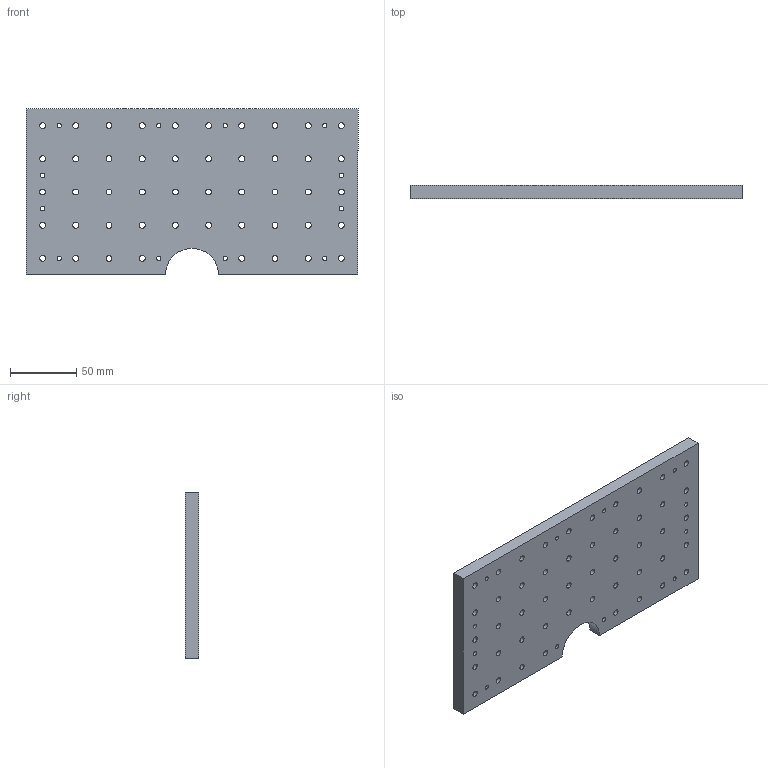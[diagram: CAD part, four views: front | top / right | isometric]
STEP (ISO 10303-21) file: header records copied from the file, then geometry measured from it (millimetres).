
FILE_DESCRIPTION(/* description */ (''),/* implementation_level */ '2;1');
FILE_NAME(/* name */ 'c-10x5-d20.stp',/* time_stamp */ '2026-06-05T17:23:43+08:00',/* author */ ('32769'),/* organization */ (''),/* preprocessor_version */ 'ST-DEVELOPER v20',/* originating_system */ 'Autodesk Inventor 2025',/* authorisation */ '');
FILE_SCHEMA (('AUTOMOTIVE_DESIGN { 1 0 10303 214 3 1 1 }'));
Length unit declared in the file: millimetre
Products named in the file (1): c-10x5-d20
Bounding box: 250 x 10 x 125 mm (x, y, z)
Volume: 297556.4 mm3; surface area: 75269.5 mm2
Topology: 1 solids, 1 shells, 68 faces, 198 edges, 132 vertices
Faces by surface type: cylinder 61, plane 7
Full cylindrical faces by diameter (mm): 3.3 x12, 4.5 x48
Entity records: 2607 total; most frequent: DIRECTION 458, CARTESIAN_POINT 399, ORIENTED_EDGE 396, EDGE_CURVE 198, AXIS2_PLACEMENT_3D 191, EDGE_LOOP 188, VERTEX_POINT 132, CIRCLE 122
